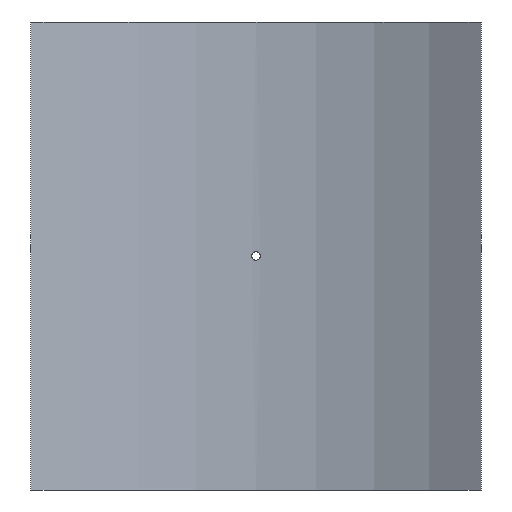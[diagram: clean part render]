
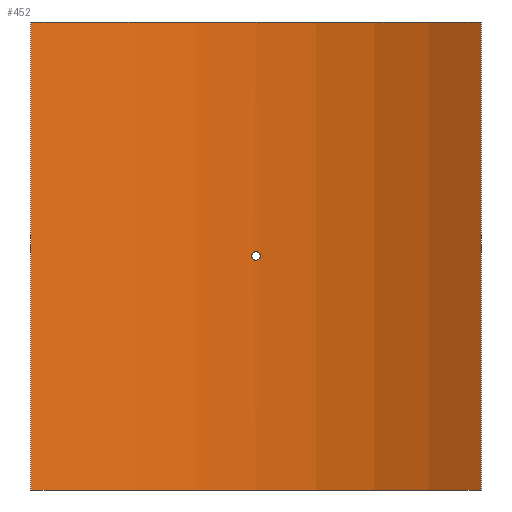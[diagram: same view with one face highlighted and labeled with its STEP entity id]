
A CAD part, front view. The second image highlights one B-rep face of the part: STEP entity #452.
In plain terms, the highlighted cylindrical face has radius 450 mm (diameter 900 mm), a partial arc.
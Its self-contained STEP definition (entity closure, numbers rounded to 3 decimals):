
#19=B_SPLINE_CURVE_WITH_KNOTS('',3,(#788,#789,#790,#791,#792,#793,#794,
#795,#796,#797,#798,#799,#800,#801,#802,#803,#804,#805,#806,#807,#808,#809,
#810,#811,#812,#813,#814,#815,#816,#817,#818,#819,#820,#821),
 .UNSPECIFIED.,.T.,.F.,(4,2,2,2,2,2,2,2,2,2,2,2,2,2,2,2,4),(0.,0.181,
0.362,0.542,0.723,0.904,
1.085,1.266,1.446,1.627,1.808,
1.989,2.17,2.351,2.531,2.712,
2.893),.UNSPECIFIED.);
#43=LINE('',#1065,#62);
#44=LINE('',#1068,#63);
#62=VECTOR('',#661,10.);
#63=VECTOR('',#664,10.);
#76=CYLINDRICAL_SURFACE('',#530,450.);
#88=FACE_BOUND('',#167,.T.);
#127=FACE_OUTER_BOUND('',#166,.T.);
#166=EDGE_LOOP('',(#405,#406,#407,#408));
#167=EDGE_LOOP('',(#409));
#201=CIRCLE('',#529,450.);
#202=CIRCLE('',#531,450.);
#219=VERTEX_POINT('',#786);
#242=VERTEX_POINT('',#1058);
#243=VERTEX_POINT('',#1060);
#244=VERTEX_POINT('',#1064);
#245=VERTEX_POINT('',#1066);
#267=EDGE_CURVE('',#219,#219,#19,.T.);
#299=EDGE_CURVE('',#242,#243,#201,.T.);
#301=EDGE_CURVE('',#244,#242,#43,.T.);
#302=EDGE_CURVE('',#245,#244,#202,.T.);
#303=EDGE_CURVE('',#245,#243,#44,.T.);
#405=ORIENTED_EDGE('',*,*,#301,.F.);
#406=ORIENTED_EDGE('',*,*,#302,.F.);
#407=ORIENTED_EDGE('',*,*,#303,.T.);
#408=ORIENTED_EDGE('',*,*,#299,.F.);
#409=ORIENTED_EDGE('',*,*,#267,.T.);
#452=ADVANCED_FACE('',(#127,#88),#76,.F.);
#529=AXIS2_PLACEMENT_3D('',#1061,#656,#657);
#530=AXIS2_PLACEMENT_3D('',#1063,#659,#660);
#531=AXIS2_PLACEMENT_3D('',#1067,#662,#663);
#656=DIRECTION('center_axis',(0.,0.,1.));
#657=DIRECTION('ref_axis',(0.567,0.824,0.));
#659=DIRECTION('center_axis',(0.,0.,1.));
#660=DIRECTION('ref_axis',(0.567,0.824,0.));
#661=DIRECTION('',(0.,0.,-1.));
#662=DIRECTION('center_axis',(0.,0.,-1.));
#663=DIRECTION('ref_axis',(0.567,0.824,0.));
#664=DIRECTION('',(0.,0.,-1.));
#786=CARTESIAN_POINT('',(4.8,449.974,0.));
#788=CARTESIAN_POINT('Ctrl Pts',(4.8,449.974,0.));
#789=CARTESIAN_POINT('Ctrl Pts',(4.8,449.974,-0.603));
#790=CARTESIAN_POINT('Ctrl Pts',(4.68,449.976,-1.246));
#791=CARTESIAN_POINT('Ctrl Pts',(4.19,449.981,-2.428));
#792=CARTESIAN_POINT('Ctrl Pts',(3.82,449.984,-2.968));
#793=CARTESIAN_POINT('Ctrl Pts',(2.968,449.99,-3.82));
#794=CARTESIAN_POINT('Ctrl Pts',(2.428,449.994,-4.19));
#795=CARTESIAN_POINT('Ctrl Pts',(1.246,449.999,-4.68));
#796=CARTESIAN_POINT('Ctrl Pts',(0.603,450.,-4.8));
#797=CARTESIAN_POINT('Ctrl Pts',(-0.603,450.,-4.8));
#798=CARTESIAN_POINT('Ctrl Pts',(-1.246,449.999,-4.68));
#799=CARTESIAN_POINT('Ctrl Pts',(-2.428,449.994,-4.19));
#800=CARTESIAN_POINT('Ctrl Pts',(-2.968,449.99,-3.82));
#801=CARTESIAN_POINT('Ctrl Pts',(-3.82,449.984,-2.968));
#802=CARTESIAN_POINT('Ctrl Pts',(-4.19,449.981,-2.428));
#803=CARTESIAN_POINT('Ctrl Pts',(-4.68,449.976,-1.246));
#804=CARTESIAN_POINT('Ctrl Pts',(-4.8,449.974,-0.603));
#805=CARTESIAN_POINT('Ctrl Pts',(-4.8,449.974,0.603));
#806=CARTESIAN_POINT('Ctrl Pts',(-4.68,449.976,1.246));
#807=CARTESIAN_POINT('Ctrl Pts',(-4.19,449.981,2.428));
#808=CARTESIAN_POINT('Ctrl Pts',(-3.82,449.984,2.968));
#809=CARTESIAN_POINT('Ctrl Pts',(-2.968,449.99,3.82));
#810=CARTESIAN_POINT('Ctrl Pts',(-2.428,449.994,4.19));
#811=CARTESIAN_POINT('Ctrl Pts',(-1.246,449.999,4.68));
#812=CARTESIAN_POINT('Ctrl Pts',(-0.603,450.,4.8));
#813=CARTESIAN_POINT('Ctrl Pts',(0.603,450.,4.8));
#814=CARTESIAN_POINT('Ctrl Pts',(1.246,449.999,4.68));
#815=CARTESIAN_POINT('Ctrl Pts',(2.428,449.994,4.19));
#816=CARTESIAN_POINT('Ctrl Pts',(2.968,449.99,3.82));
#817=CARTESIAN_POINT('Ctrl Pts',(3.82,449.984,2.968));
#818=CARTESIAN_POINT('Ctrl Pts',(4.19,449.981,2.428));
#819=CARTESIAN_POINT('Ctrl Pts',(4.68,449.976,1.246));
#820=CARTESIAN_POINT('Ctrl Pts',(4.8,449.974,0.603));
#821=CARTESIAN_POINT('Ctrl Pts',(4.8,449.974,0.));
#1058=CARTESIAN_POINT('',(255.,370.776,-265.));
#1060=CARTESIAN_POINT('',(-255.,370.776,-265.));
#1061=CARTESIAN_POINT('Origin',(0.,0.,
-265.));
#1063=CARTESIAN_POINT('Origin',(0.,0.,
0.));
#1064=CARTESIAN_POINT('',(255.,370.776,265.));
#1065=CARTESIAN_POINT('',(255.,370.776,0.));
#1066=CARTESIAN_POINT('',(-255.,370.776,265.));
#1067=CARTESIAN_POINT('Origin',(0.,0.,
265.));
#1068=CARTESIAN_POINT('',(-255.,370.776,0.));
